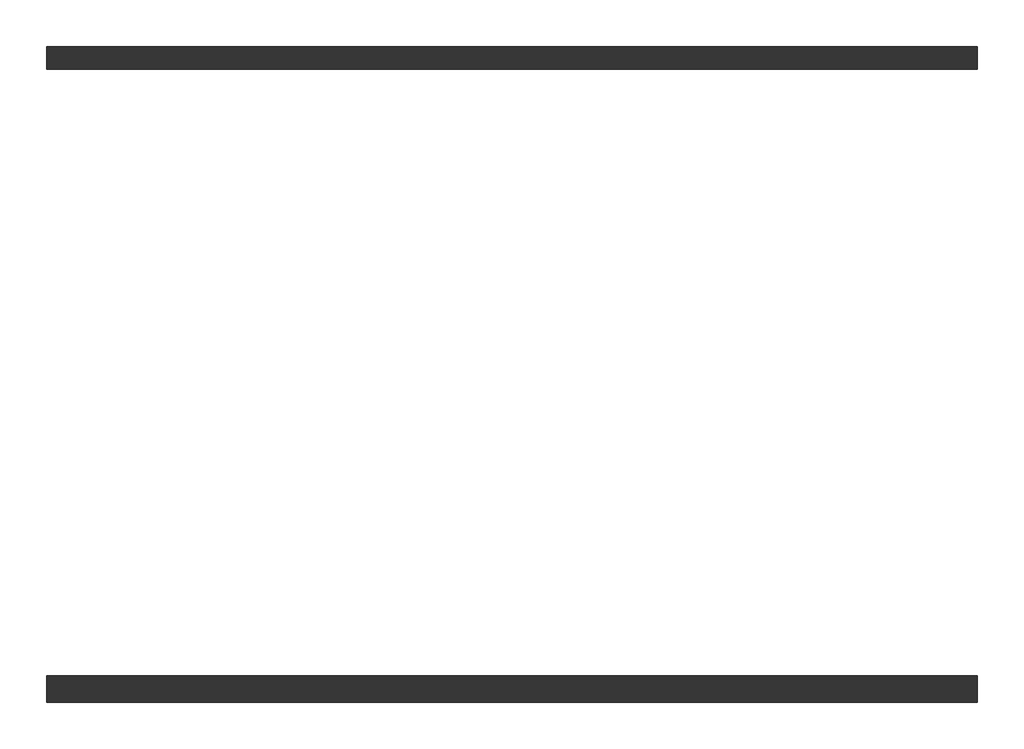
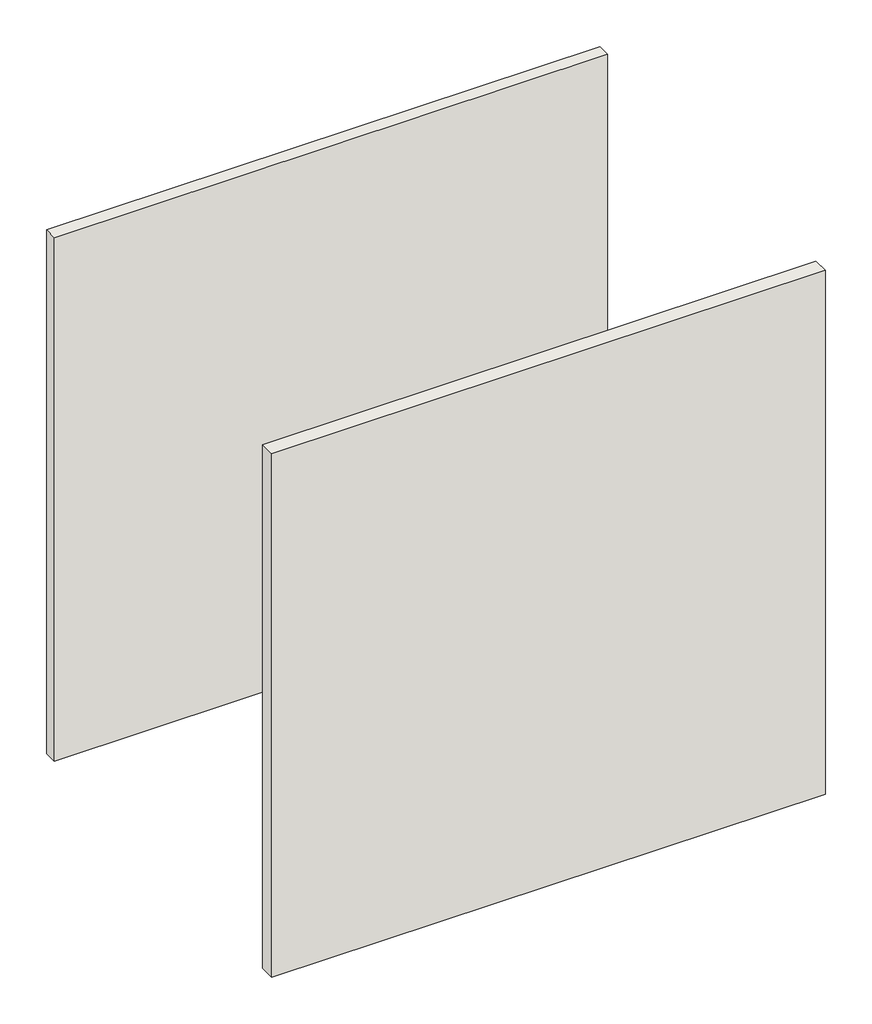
# One storey: 2 walls.
"""IFC4 building model written with IfcOpenShell, lengths in millimetres."""

from ifc_helpers import new_model, si_unit, origin, origin_with_axes, place, context, project, spatial, polyline, outline, extrude, element, save

model = new_model("IFC4")

# Units and contexts
model_context = context("Model", 3, world=origin())
ifc_project = project(units=[si_unit("LENGTHUNIT", "METRE", prefix="MILLI")], contexts=[model_context])

# Site, building, storey
site = spatial("IfcSite", under=ifc_project)
building = spatial("IfcBuilding", under=site)
storey = spatial("IfcBuildingStorey", under=building, Name="Уровень 1", Elevation=0.0)

# Walls
placement = place(None, origin())
element("IfcWall", 1, ObjectType="Облицовка КНАУФ С631.1 Применение внутри здания ПП60/27 ПН28х27 Файерборд 12.5", at=placement, inside=storey, context=model_context, shape_type="SweptSolid", body=[
    extrude(outline(polyline([(1199.5279024, 1128.8822296), (-1800.4720976, 1128.8822296), (-1800.4720976, 1201.3822296), (1199.5279024, 1201.3822296), (1199.5279024, 1128.8822296)])), origin_with_axes(), (0.0, 0.0, 1.0), 3000.0),
])
element("IfcWall", 2, ObjectType="Облицовка КНАУФ С631.2 Применение внутри здания ПП60/27 ПН28х27 ГСП-А 12.5 Файерборд 12.5", at=placement, inside=storey, context=model_context, shape_type="SweptSolid", body=[
    extrude(outline(polyline([(1199.5279024, -913.6177704), (-1800.4720976, -913.6177704), (-1800.4720976, -828.6177704), (1199.5279024, -828.6177704), (1199.5279024, -913.6177704)])), origin_with_axes(), (0.0, 0.0, 1.0), 3000.0),
])

save(model, "model.ifc")
